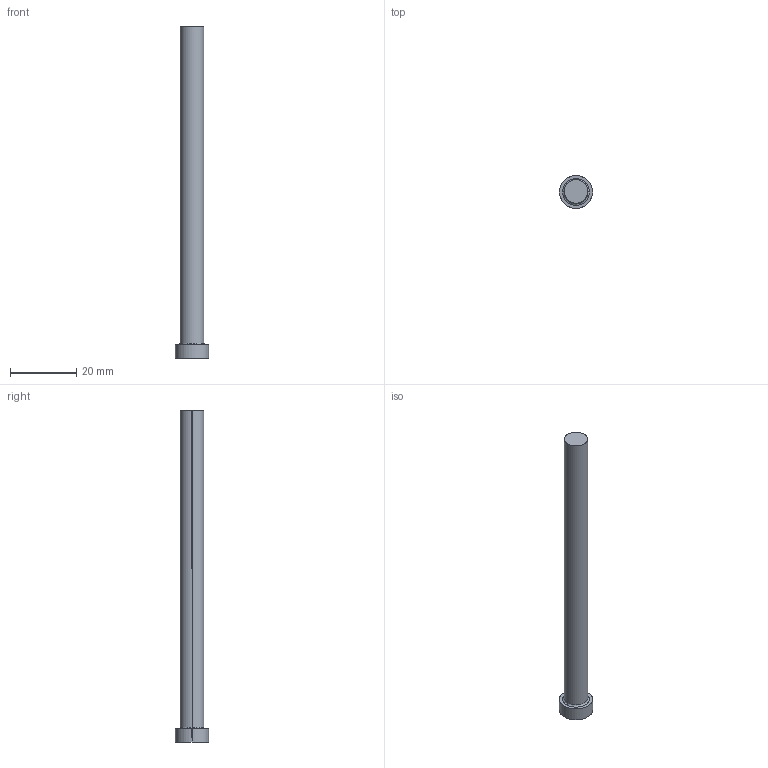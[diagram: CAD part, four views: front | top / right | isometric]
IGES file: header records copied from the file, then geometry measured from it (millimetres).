
Start section: SolidWorks IGES file using analytic representation for surfaces
Global section: file name: D:\Current\W1-2\EPH\EPH7.1-100.igs; native system: SolidWorks 2017; preprocessor: SolidWorks 2017; author: Ravi Kalvai; date: 240411.171436; units: millimetre
Bounding box: 10 x 10 x 100 mm (x, y, z)
Surface area: 2419.4 mm2 (no closed solid volume)
Topology: 0 solids, 0 shells, 9 faces, 152 edges, 152 vertices
Faces by surface type: bspline 5, revolution 4
